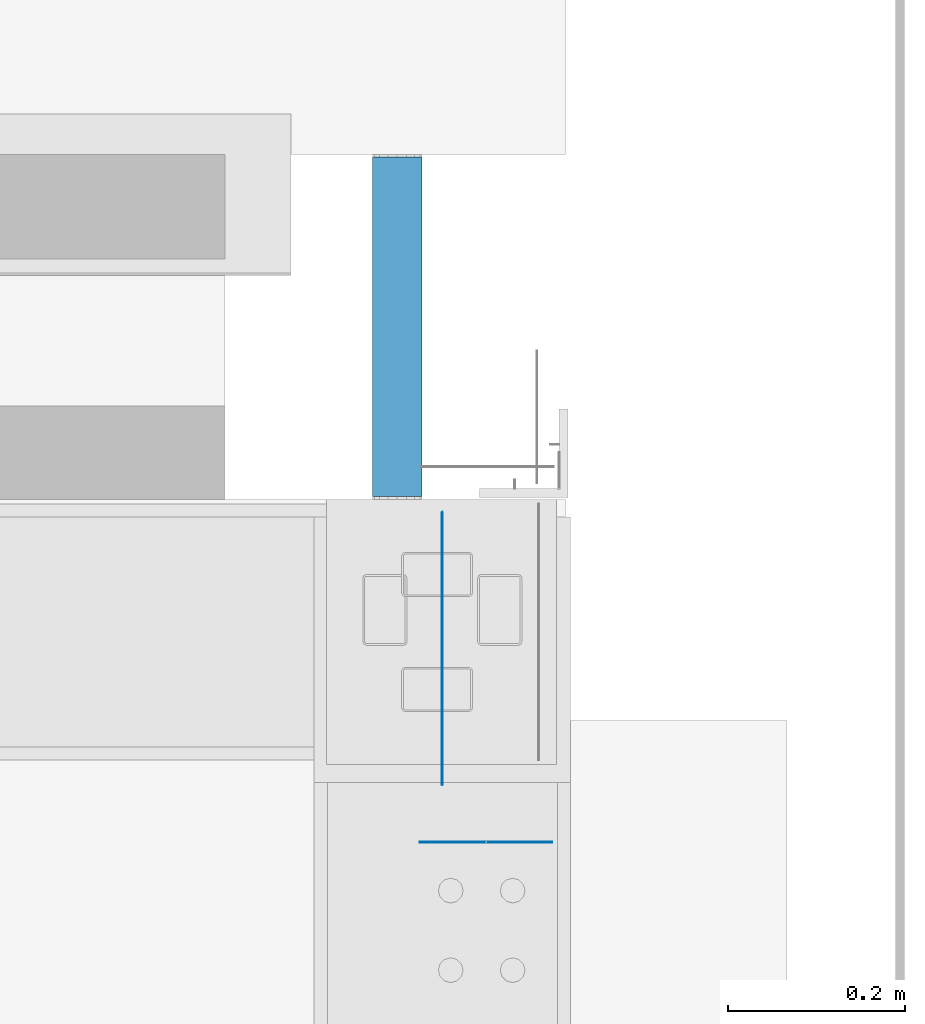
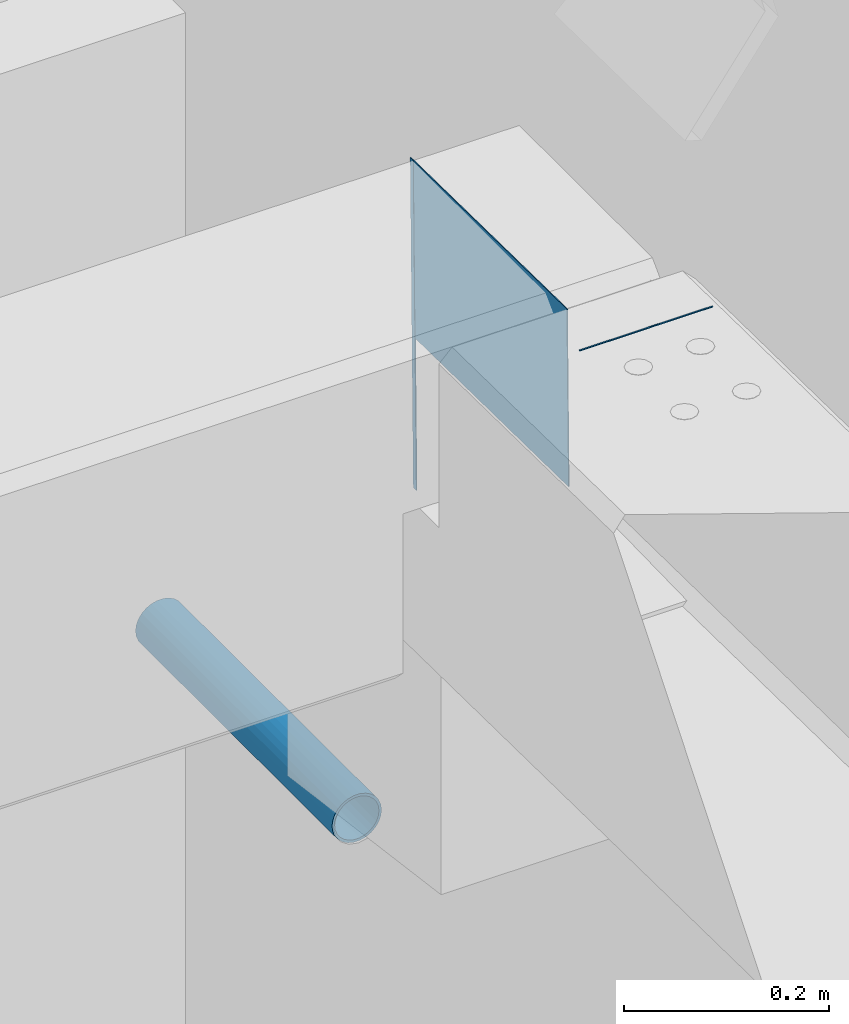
# One storey, part 33 of 186: 4 beams.
"""IFC4X3_ADD2 building model written with IfcOpenShell, lengths in millimetres."""

from ifc_helpers import new_model, si_unit, direction, frame, frame_2d, origin_with_axes, place, context, subcontext, project, spatial, rectangle, hollow_circle, extrude, material, element, save


model = new_model("IFC4X3_ADD2")

# Units and contexts
model_context = context("Model", 3, precision=1e-05, world=origin_with_axes(), true_north=direction((0.0, 1.0)))
body_context = subcontext(model_context, "Body", "Model", "MODEL_VIEW")
ifc_project = project(units=[si_unit("LENGTHUNIT", "METRE", prefix="MILLI"), si_unit("AREAUNIT", "SQUARE_METRE"), si_unit("VOLUMEUNIT", "CUBIC_METRE"), si_unit("PLANEANGLEUNIT", "RADIAN"), si_unit("TIMEUNIT", "SECOND"), si_unit("MASSUNIT", "GRAM")], contexts=[model_context])

# Site, building, storey
site_placement = place(None, origin_with_axes())
site = spatial("IfcSite", under=ifc_project, at=site_placement, Name="Site", CompositionType="ELEMENT")
building_placement = place(site_placement, origin_with_axes())
building = spatial("IfcBuilding", under=site, at=building_placement, Name="IFC Building Story")
storey_placement = place(building_placement, frame((0.0, 0.0, 4370.0), z_axis=(0.0, 0.0, 1.0), x_axis=(1.0, 0.0, 0.0)))
storey = spatial("IfcBuildingStorey", under=building, at=storey_placement, Name="ETAGE 10 (1)", Elevation=4370.0)

# Beams
ifc_material_1 = material(Name="STEEL/Accessory_invisible 261")
beam_1_placement = place(storey_placement, frame((48362.68869887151, -19.81511316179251, 2954.973220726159), z_axis=(-1.0, 0.0, 0.0), x_axis=(0.0, 0.01553280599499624, 0.9998793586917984)))
element("IfcBeam", 1, at=beam_1_placement, inside=storey, material=ifc_material_1, Name="BEK4", ObjectType="6*1 4", context=body_context, shape_type="SweptSolid", body=[
    extrude(rectangle(XDim=390.000000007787, YDim=5.99999999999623, at=frame_2d((0.0, 5.95523630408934e-12), x_axis=(1.0, 0.0))), origin_with_axes(), (0.0, 0.0, 1.0), 1.0),
])
beam_2_placement = place(storey_placement, frame((48361.688699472, -171.5238567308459, 3047.34104378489), z_axis=(1.0, 0.0, 0.0), x_axis=(0.0, 0.01553419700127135, 0.9998793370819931)))
element("IfcBeam", 2, at=beam_2_placement, inside=storey, material=ifc_material_1, Name="BEK4", ObjectType="210*1 2", context=body_context, shape_type="SweptSolid", body=[
    extrude(rectangle(XDim=210.0, YDim=300.250053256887, at=frame_2d((0.0, 5.95523630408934e-12), x_axis=(1.0, 0.0))), origin_with_axes(), (0.0, 0.0, 1.0), 0.999999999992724),
])
beam_3_placement = place(storey_placement, frame((48486.692835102, -387.961366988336, 3155.23171397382), z_axis=(-1.0, 0.0, 0.0), x_axis=(0.0, 0.9998873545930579, -0.01500926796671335)))
element("IfcBeam", 3, at=beam_3_placement, inside=storey, material=ifc_material_1, Name="54", ObjectType="1*1 3", context=body_context, shape_type="SweptSolid", body=[
    extrude(rectangle(XDim=0.9999999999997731, YDim=0.9999999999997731, at=frame_2d((0.0, 5.95523630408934e-12), x_axis=(1.0, 0.0))), origin_with_axes(), (0.0, 0.0, 1.0), 150.0),
])
ifc_material_2 = material(Name="STEEL/Accessory_PVC")
beam_4_placement = place(storey_placement, frame((48311.188, 3.00000005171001, 2369.626), z_axis=(0.0, 1.0, 0.0), x_axis=(1.0, 0.0, 0.0)))
element("IfcBeam", 4, at=beam_4_placement, inside=storey, material=ifc_material_2, Name="PS13", ObjectType="O56*3", context=body_context, shape_type="SweptSolid", body=[
    extrude(hollow_circle(Radius=28.0, WallThickness=3.0, at=frame_2d((0.0, 5.95523630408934e-12), x_axis=(1.0, 0.0))), origin_with_axes(), (0.0, 0.0, 1.0), 384.0),
])

save(model, "model.ifc")
